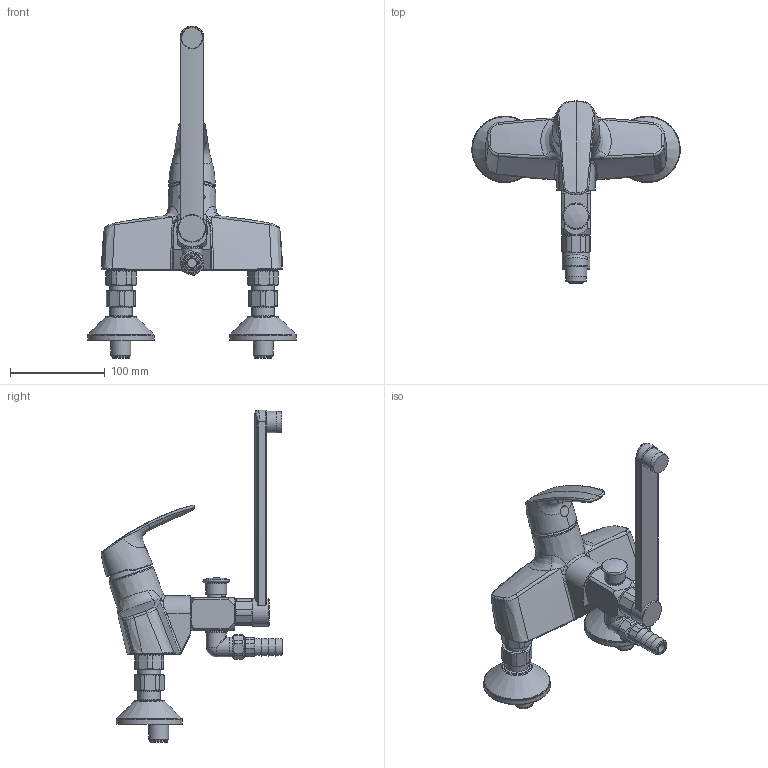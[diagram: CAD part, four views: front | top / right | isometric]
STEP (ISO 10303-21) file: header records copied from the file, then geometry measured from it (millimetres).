
FILE_DESCRIPTION (( 'STEP AP203' ), '1' );
FILE_NAME ('1074X(2017).STEP', '2017-03-09T05:42:18', ( '' ), ( '' ), 'SwSTEP 2.0', 'SolidWorks 2016', '' );
FILE_SCHEMA (( 'CONFIG_CONTROL_DESIGN' ));
Length unit declared in the file: millimetre
Products named in the file (1): 1074X(2017)
Bounding box: 220 x 192.04 x 350.33 mm (x, y, z)
Surface area: 143020.7 mm2 (no closed solid volume)
Topology: 0 solids, 8 shells, 672 faces, 1624 edges, 1013 vertices
Faces by surface type: plane 205, cylinder 172, cone 136, bspline 130, torus 27, sphere 2
Full cylindrical faces by diameter (mm): 7.3 x2, 10 x1, 12.5 x2, 13.917 x1, 14 x1, 17.353 x1, 18.5 x2, 19 x3, 20.955 x3, 21 x3, 21.2 x2, 21.5 x1, 22 x1, 22.4 x2, 22.471 x1, 23 x1, 23.8 x2, 24 x2, 24.7 x2, 26 x2, 26.441 x7, 26.7 x2, 28.175 x1, 29 x3, 33 x1, 69.2 x2, 70 x2
Entity records: 35775 total; most frequent: CARTESIAN_POINT 22161, ORIENTED_EDGE 2886, DIRECTION 2476, EDGE_CURVE 1462, AXIS2_PLACEMENT_3D 1071, VERTEX_POINT 964, EDGE_LOOP 838, FACE_OUTER_BOUND 742
